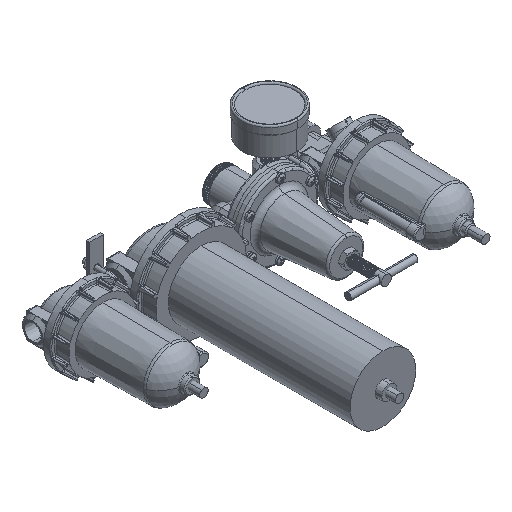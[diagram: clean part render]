
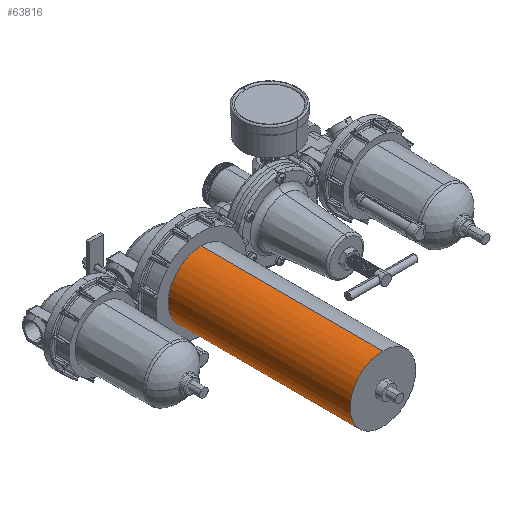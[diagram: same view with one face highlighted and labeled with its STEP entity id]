
A CAD part, isometric view. The second image highlights one B-rep face of the part: STEP entity #63816.
In plain terms, the highlighted cylindrical face has radius 31.5 mm (diameter 63 mm), a partial arc.
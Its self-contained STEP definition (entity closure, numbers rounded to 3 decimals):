
#516 = EDGE_CURVE ( 'NONE', #60402, #44530, #69889, .T. ) ;
#689 = CARTESIAN_POINT ( 'NONE',  ( 0., 174.5, 31.5 ) ) ;
#3653 = CARTESIAN_POINT ( 'NONE',  ( 0., 0., 31.5 ) ) ;
#4589 = ORIENTED_EDGE ( 'NONE', *, *, #516, .F. ) ;
#6467 = EDGE_CURVE ( 'NONE', #44530, #49129, #28357, .T. ) ;
#8357 = AXIS2_PLACEMENT_3D ( 'NONE', #14970, #45084, #26732 ) ;
#10604 = FACE_OUTER_BOUND ( 'NONE', #48423, .T. ) ;
#12660 = CARTESIAN_POINT ( 'NONE',  ( 0., 174.5, 0. ) ) ;
#14970 = CARTESIAN_POINT ( 'NONE',  ( 0., 174.5, 0. ) ) ;
#15258 = VERTEX_POINT ( 'NONE', #61894 ) ;
#26309 = VECTOR ( 'NONE', #30111, 1000. ) ;
#26732 = DIRECTION ( 'NONE',  ( 0., 0., 1. ) ) ;
#27153 = ORIENTED_EDGE ( 'NONE', *, *, #6467, .F. ) ;
#27569 = EDGE_CURVE ( 'NONE', #15258, #49129, #43721, .T. ) ;
#28357 = LINE ( 'NONE', #689, #72131 ) ;
#29772 = DIRECTION ( 'NONE',  ( 0., -1., 0. ) ) ;
#30111 = DIRECTION ( 'NONE',  ( 0., -1., 0. ) ) ;
#30430 = ORIENTED_EDGE ( 'NONE', *, *, #27569, .T. ) ;
#31780 = DIRECTION ( 'NONE',  ( 0., 0., -1. ) ) ;
#35980 = CARTESIAN_POINT ( 'NONE',  ( 0., 174.5, -31.5 ) ) ;
#42391 = AXIS2_PLACEMENT_3D ( 'NONE', #12660, #55509, #31780 ) ;
#43721 = CIRCLE ( 'NONE', #74301, 31.5 ) ;
#44530 = VERTEX_POINT ( 'NONE', #62539 ) ;
#45084 = DIRECTION ( 'NONE',  ( 0., 1., 0. ) ) ;
#46593 = EDGE_CURVE ( 'NONE', #60402, #15258, #54742, .T. ) ;
#47578 = DIRECTION ( 'NONE',  ( 0., 0., 1. ) ) ;
#48423 = EDGE_LOOP ( 'NONE', ( #27153, #4589, #63987, #30430 ) ) ;
#49129 = VERTEX_POINT ( 'NONE', #3653 ) ;
#53171 = CARTESIAN_POINT ( 'NONE',  ( 0., 0., 0. ) ) ;
#53436 = DIRECTION ( 'NONE',  ( 0., 1., 0. ) ) ;
#54742 = LINE ( 'NONE', #35980, #26309 ) ;
#55509 = DIRECTION ( 'NONE',  ( 0., -1., 0. ) ) ;
#60402 = VERTEX_POINT ( 'NONE', #75548 ) ;
#61894 = CARTESIAN_POINT ( 'NONE',  ( 0., 0., -31.5 ) ) ;
#62539 = CARTESIAN_POINT ( 'NONE',  ( 0., 174.5, 31.5 ) ) ;
#63816 = ADVANCED_FACE ( 'NONE', ( #10604 ), #74411, .T. ) ;
#63987 = ORIENTED_EDGE ( 'NONE', *, *, #46593, .T. ) ;
#69889 = CIRCLE ( 'NONE', #8357, 31.5 ) ;
#72131 = VECTOR ( 'NONE', #29772, 1000. ) ;
#74301 = AXIS2_PLACEMENT_3D ( 'NONE', #53171, #53436, #47578 ) ;
#74411 = CYLINDRICAL_SURFACE ( 'NONE', #42391, 31.5 ) ;
#75548 = CARTESIAN_POINT ( 'NONE',  ( 0., 174.5, -31.5 ) ) ;
